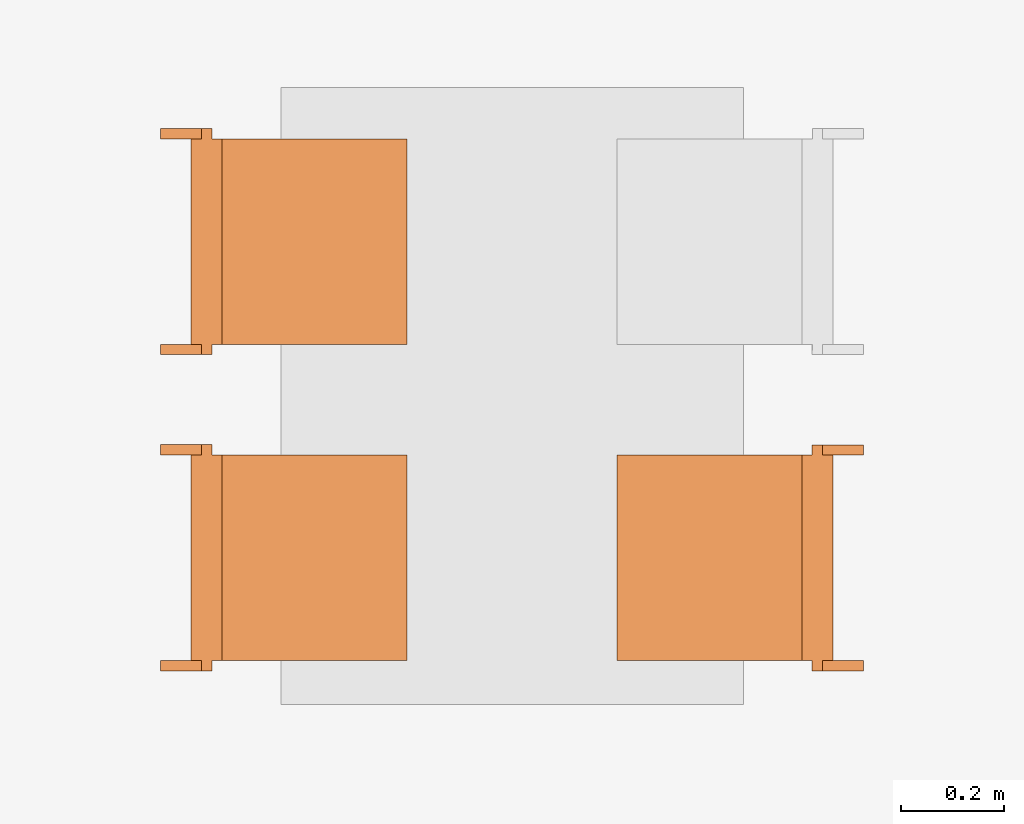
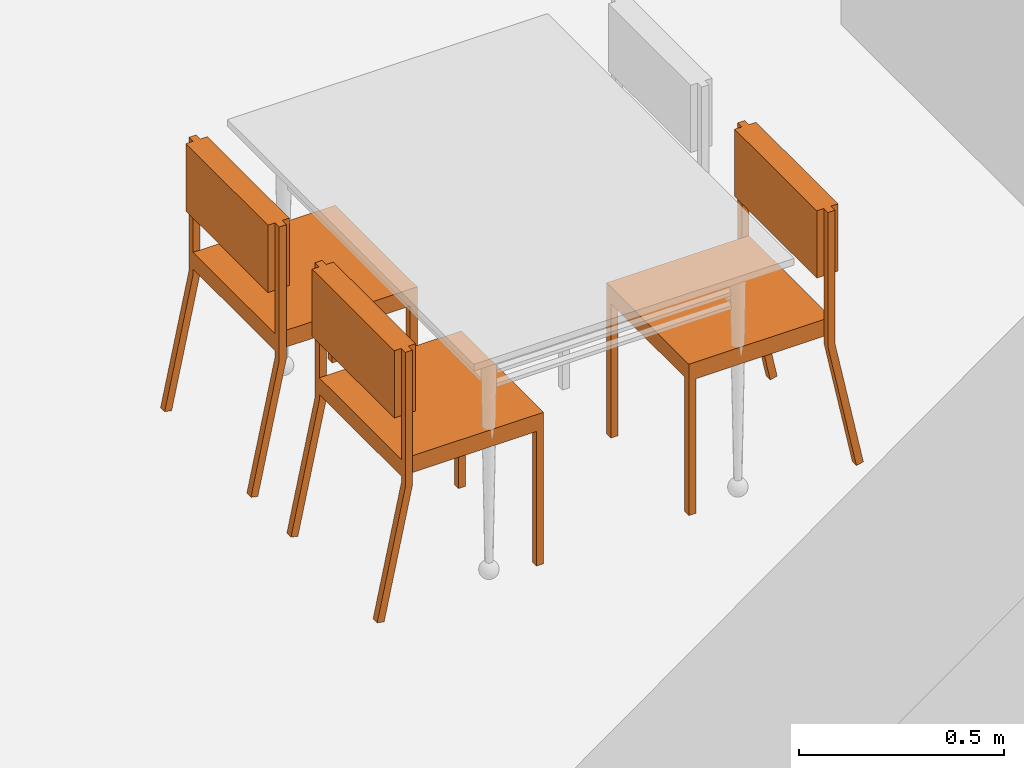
# One storey, part 139 of 164: 3 proxies.
"""IFC2X3 building model written with IfcOpenShell, lengths in millimetres."""

from ifc_helpers import new_model, entity, si_unit, converted_unit, derived_unit, money_unit, direction, frame, origin_with_axes, place, context, subcontext, project, spatial, faceted_brep, source, transform, mapped, type_object, element, save


model = new_model("IFC2X3")

# Units and contexts
model_context = context("Model", 3, precision=0.01, world=origin_with_axes(), true_north=direction((0.0, 1.0)))
body_context = subcontext(model_context, "Body", "Model", "MODEL_VIEW")
ifc_project = project(units=[si_unit("LENGTHUNIT", "METRE", prefix="MILLI"), si_unit("AREAUNIT", "SQUARE_METRE"), si_unit("VOLUMEUNIT", "CUBIC_METRE"), converted_unit("PLANEANGLEUNIT", "DEGREE", entity("IfcPlaneAngleMeasure", 0.0174532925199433), si_unit("PLANEANGLEUNIT", "RADIAN"), dimensions=[0, 0, 0, 0, 0, 0, 0]), money_unit("USD"), converted_unit("TIMEUNIT", "Year", entity("IfcTimeMeasure", 31557600.0), si_unit("TIMEUNIT", "SECOND"), dimensions=[0, 0, 1, 0, 0, 0, 0]), si_unit("MASSUNIT", "GRAM", prefix="KILO"), si_unit("THERMODYNAMICTEMPERATUREUNIT", "DEGREE_CELSIUS"), si_unit("LUMINOUSINTENSITYUNIT", "LUMEN"), si_unit("ENERGYUNIT", "JOULE", prefix="MEGA"), derived_unit("THERMALCONDUCTANCEUNIT", [(si_unit("POWERUNIT", "WATT"), 1), (si_unit("LENGTHUNIT", "METRE"), -1), (si_unit("THERMODYNAMICTEMPERATUREUNIT", "KELVIN"), -1)]), derived_unit("SPECIFICHEATCAPACITYUNIT", [(si_unit("ENERGYUNIT", "JOULE"), 1), (si_unit("MASSUNIT", "GRAM", prefix="KILO"), -1), (si_unit("THERMODYNAMICTEMPERATUREUNIT", "KELVIN"), -1)]), derived_unit("MASSDENSITYUNIT", [(si_unit("MASSUNIT", "GRAM", prefix="KILO"), 1), (si_unit("VOLUMEUNIT", "CUBIC_METRE"), -1)])], contexts=[model_context])

# Site, building, storey
site_placement = place(None, origin_with_axes())
site = spatial("IfcSite", under=ifc_project, at=site_placement, Name="Site", CompositionType="ELEMENT")
building_placement = place(site_placement, origin_with_axes())
building = spatial("IfcBuilding", under=site, at=building_placement, Name="Bâtiment", CompositionType="ELEMENT")
storey_placement = place(building_placement, frame((0.0, 0.0, 5750.0), z_axis=(0.0, 0.0, 1.0), x_axis=(1.0, 0.0, 0.0)))
storey = spatial("IfcBuildingStorey", under=building, at=storey_placement, Name="Etage1", CompositionType="ELEMENT", Elevation=5750.0)

# Proxies
building_element_proxy_type = type_object("IfcBuildingElementProxyType", PredefinedType="NOTDEFINED")
shared_shape_1 = source(origin_with_axes(), body_context, "Body", "Brep", [
    faceted_brep([(39.99999978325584, 0.0, 0.0), (19.99999989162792, 0.0, 0.0), (19.99999989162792, 19.99999936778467, 0.0), (39.99999978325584, 19.99999936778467, 0.0), (39.99999978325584, 0.0, 400.0), (19.99999989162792, 0.0, 400.0), (19.99999989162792, 19.99999936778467, 400.0), (39.99999978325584, 19.99999936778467, 400.0)], [[[0, 1, 2, 3]], [[1, 0, 4, 5]], [[2, 1, 5, 6]], [[3, 2, 6, 7]], [[0, 3, 7, 4]], [[5, 4, 7, 6]]]),
    faceted_brep([(419.9999977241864, 0.0, 0.0), (399.9999978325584, 0.0, 0.0), (399.9999978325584, 19.99999936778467, 0.0), (419.9999977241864, 19.99999936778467, 0.0), (419.9999977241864, 0.0, 400.0), (399.9999978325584, 0.0, 400.0), (399.9999978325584, 19.99999936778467, 400.0), (419.9999977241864, 19.99999936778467, 400.0)], [[[0, 1, 2, 3]], [[1, 0, 4, 5]], [[2, 1, 5, 6]], [[3, 2, 6, 7]], [[0, 3, 7, 4]], [[5, 4, 7, 6]]]),
    faceted_brep([(399.9999978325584, 0.0, 400.0000000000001), (39.99999978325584, 0.0, 400.0000000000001), (39.99999978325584, 19.99999936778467, 400.0000000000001), (399.9999978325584, 19.99999936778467, 400.0000000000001), (399.9999978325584, 0.0, 420.0000000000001), (39.99999978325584, 0.0, 420.0000000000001), (39.99999978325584, 19.99999936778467, 420.0000000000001), (399.9999978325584, 19.99999936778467, 420.0000000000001)], [[[0, 1, 2, 3]], [[1, 0, 4, 5]], [[2, 1, 5, 6]], [[3, 2, 6, 7]], [[0, 3, 7, 4]], [[5, 4, 7, 6]]]),
    faceted_brep([(39.99999978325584, 19.99999936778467, 400.0000000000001), (19.99999989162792, 19.99999936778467, 400.0000000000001), (19.99999989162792, 379.9999879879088, 400.0000000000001), (39.99999978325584, 379.9999879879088, 400.0000000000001), (39.99999978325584, 19.99999936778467, 420.0000000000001), (19.99999989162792, 19.99999936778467, 420.0000000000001), (19.99999989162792, 379.9999879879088, 420.0000000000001), (39.99999978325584, 379.9999879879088, 420.0000000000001)], [[[0, 1, 2, 3]], [[1, 0, 4, 5]], [[2, 1, 5, 6]], [[3, 2, 6, 7]], [[0, 3, 7, 4]], [[5, 4, 7, 6]]]),
    faceted_brep([(419.9999977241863, 379.9999879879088, 400.0000000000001), (19.99999989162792, 379.9999879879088, 400.0000000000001), (19.99999989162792, 399.9999873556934, 400.0000000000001), (419.9999977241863, 399.9999873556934, 400.0000000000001), (419.9999977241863, 379.9999879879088, 420.0000000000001), (19.99999989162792, 379.9999879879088, 420.0000000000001), (19.99999989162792, 399.9999873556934, 420.0000000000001), (419.9999977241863, 399.9999873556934, 420.0000000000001)], [[[0, 1, 2, 3]], [[1, 0, 4, 5]], [[2, 1, 5, 6]], [[3, 2, 6, 7]], [[0, 3, 7, 4]], [[5, 4, 7, 6]]]),
    faceted_brep([(419.9999977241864, 19.99999936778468, 400.0000000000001), (399.9999978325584, 19.99999936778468, 400.0000000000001), (399.9999978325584, 379.9999879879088, 400.0000000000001), (419.9999977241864, 379.9999879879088, 400.0000000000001), (419.9999977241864, 19.99999936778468, 420.0000000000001), (399.9999978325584, 19.99999936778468, 420.0000000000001), (399.9999978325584, 379.9999879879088, 420.0000000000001), (419.9999977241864, 379.9999879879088, 420.0000000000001)], [[[0, 1, 2, 3]], [[1, 0, 4, 5]], [[2, 1, 5, 6]], [[3, 2, 6, 7]], [[0, 3, 7, 4]], [[5, 4, 7, 6]]]),
    faceted_brep([(419.9999977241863, 0.0, 400.0), (19.99999989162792, 0.0, 400.0), (19.99999989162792, 399.9999873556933, 400.0), (419.9999977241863, 399.9999873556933, 400.0), (419.9999977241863, 0.0, 450.0), (19.99999989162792, 0.0, 450.0), (19.99999989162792, 399.9999873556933, 450.0), (419.9999977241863, 399.9999873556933, 450.0)], [[[0, 1, 2, 3]], [[1, 0, 4, 5]], [[2, 1, 5, 6]], [[3, 2, 6, 7]], [[0, 3, 7, 4]], [[5, 4, 7, 6]]]),
    faceted_brep([(19.99999989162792, 379.9999879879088, 380.0), (0.0, 379.9999879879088, 380.0), (0.0, 399.9999873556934, 380.0), (19.99999989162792, 399.9999873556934, 380.0), (19.99999989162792, 379.9999879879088, 780.0), (0.0, 379.9999879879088, 780.0), (0.0, 399.9999873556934, 780.0), (19.99999989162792, 399.9999873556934, 780.0)], [[[0, 1, 2, 3]], [[1, 0, 4, 5]], [[2, 1, 5, 6]], [[3, 2, 6, 7]], [[0, 3, 7, 4]], [[5, 4, 7, 6]]]),
    faceted_brep([(439.9999976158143, 379.9999879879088, 380.0), (419.9999977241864, 379.9999879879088, 380.0), (419.9999977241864, 399.9999873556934, 380.0), (439.9999976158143, 399.9999873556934, 380.0), (439.9999976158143, 379.9999879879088, 780.0), (419.9999977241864, 379.9999879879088, 780.0), (419.9999977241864, 399.9999873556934, 780.0), (439.9999976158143, 399.9999873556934, 780.0)], [[[0, 1, 2, 3]], [[1, 0, 4, 5]], [[2, 1, 5, 6]], [[3, 2, 6, 7]], [[0, 3, 7, 4]], [[5, 4, 7, 6]]]),
    faceted_brep([(419.9999977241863, 359.999988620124, 580.0000000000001), (19.99999989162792, 359.999988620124, 580.0000000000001), (19.99999989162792, 419.9999867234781, 580.0000000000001), (419.9999977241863, 419.9999867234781, 580.0000000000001), (419.9999977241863, 359.999988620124, 780.0), (19.99999989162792, 359.999988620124, 780.0), (19.99999989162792, 419.9999867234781, 780.0), (419.9999977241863, 419.9999867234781, 780.0)], [[[0, 1, 2, 3]], [[1, 0, 4, 5]], [[2, 1, 5, 6]], [[3, 2, 6, 7]], [[0, 3, 7, 4]], [[5, 4, 7, 6]]]),
    faceted_brep([(19.99999989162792, 459.9999854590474, 0.0), (0.0, 459.9999854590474, 0.0), (0.0, 479.5709559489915, 4.120326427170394), (19.99999989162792, 479.5709559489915, 4.120326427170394), (19.99999989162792, 379.997669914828, 379.999760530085), (0.0, 379.997669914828, 379.999760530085), (0.0, 399.5686404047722, 384.1200869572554), (19.99999989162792, 399.5686404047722, 384.1200869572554)], [[[0, 1, 2, 3]], [[1, 0, 4, 5]], [[2, 1, 5, 6]], [[3, 2, 6, 7]], [[0, 3, 7, 4]], [[5, 4, 7, 6]]]),
    faceted_brep([(439.9999976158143, 459.9999854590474, 0.0), (419.9999977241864, 459.9999854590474, 0.0), (419.9999977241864, 479.5709559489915, 4.120326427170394), (439.9999976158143, 479.5709559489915, 4.120326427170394), (439.9999976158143, 379.997669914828, 379.999760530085), (419.9999977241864, 379.997669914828, 379.999760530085), (419.9999977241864, 399.5686404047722, 384.1200869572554), (439.9999976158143, 399.5686404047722, 384.1200869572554)], [[[0, 1, 2, 3]], [[1, 0, 4, 5]], [[2, 1, 5, 6]], [[3, 2, 6, 7]], [[0, 3, 7, 4]], [[5, 4, 7, 6]]]),
])
proxy_placement = place(storey_placement, frame((2231102.83008565, -655902.8714699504, 0.0), z_axis=(0.0, 0.0, 1.0), x_axis=(-8.510155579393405e-05, -0.9999999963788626, 0.0)))
element("IfcBuildingElementProxy", 1, at=proxy_placement, inside=storey, type_object=building_element_proxy_type, Name="Obj.-027", context=body_context, shape_type="MappedRepresentation", body=[
    mapped(shared_shape_1, transform((0.0, 0.0, 0.0))),
])
shared_shape_2 = source(origin_with_axes(), body_context, "Body", "Brep", [
    faceted_brep([(-39.99999978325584, 0.0, 0.0), (-39.99999978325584, 19.99999936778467, 0.0), (-19.99999989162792, 19.99999936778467, 0.0), (-19.99999989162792, 0.0, 0.0), (-39.99999978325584, 0.0, 400.0), (-39.99999978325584, 19.99999936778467, 400.0), (-19.99999989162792, 19.99999936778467, 400.0), (-19.99999989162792, 0.0, 400.0)], [[[0, 1, 2, 3]], [[0, 4, 5, 1]], [[1, 5, 6, 2]], [[2, 6, 7, 3]], [[3, 7, 4, 0]], [[7, 6, 5, 4]]]),
    faceted_brep([(-419.9999977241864, 0.0, 0.0), (-419.9999977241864, 19.99999936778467, 0.0), (-399.9999978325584, 19.99999936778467, 0.0), (-399.9999978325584, 0.0, 0.0), (-419.9999977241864, 0.0, 400.0), (-419.9999977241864, 19.99999936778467, 400.0), (-399.9999978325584, 19.99999936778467, 400.0), (-399.9999978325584, 0.0, 400.0)], [[[0, 1, 2, 3]], [[0, 4, 5, 1]], [[1, 5, 6, 2]], [[2, 6, 7, 3]], [[3, 7, 4, 0]], [[7, 6, 5, 4]]]),
    faceted_brep([(-399.9999978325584, 0.0, 400.0000000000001), (-399.9999978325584, 19.99999936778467, 400.0000000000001), (-39.99999978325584, 19.99999936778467, 400.0000000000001), (-39.99999978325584, 0.0, 400.0000000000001), (-399.9999978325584, 0.0, 420.0000000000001), (-399.9999978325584, 19.99999936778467, 420.0000000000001), (-39.99999978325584, 19.99999936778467, 420.0000000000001), (-39.99999978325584, 0.0, 420.0000000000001)], [[[0, 1, 2, 3]], [[0, 4, 5, 1]], [[1, 5, 6, 2]], [[2, 6, 7, 3]], [[3, 7, 4, 0]], [[7, 6, 5, 4]]]),
    faceted_brep([(-39.99999978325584, 19.99999936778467, 400.0000000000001), (-39.99999978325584, 379.9999879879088, 400.0000000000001), (-19.99999989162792, 379.9999879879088, 400.0000000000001), (-19.99999989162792, 19.99999936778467, 400.0000000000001), (-39.99999978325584, 19.99999936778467, 420.0000000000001), (-39.99999978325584, 379.9999879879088, 420.0000000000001), (-19.99999989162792, 379.9999879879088, 420.0000000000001), (-19.99999989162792, 19.99999936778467, 420.0000000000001)], [[[0, 1, 2, 3]], [[0, 4, 5, 1]], [[1, 5, 6, 2]], [[2, 6, 7, 3]], [[3, 7, 4, 0]], [[7, 6, 5, 4]]]),
    faceted_brep([(-419.9999977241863, 379.9999879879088, 400.0000000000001), (-419.9999977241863, 399.9999873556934, 400.0000000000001), (-19.99999989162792, 399.9999873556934, 400.0000000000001), (-19.99999989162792, 379.9999879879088, 400.0000000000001), (-419.9999977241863, 379.9999879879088, 420.0000000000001), (-419.9999977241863, 399.9999873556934, 420.0000000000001), (-19.99999989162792, 399.9999873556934, 420.0000000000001), (-19.99999989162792, 379.9999879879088, 420.0000000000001)], [[[0, 1, 2, 3]], [[0, 4, 5, 1]], [[1, 5, 6, 2]], [[2, 6, 7, 3]], [[3, 7, 4, 0]], [[7, 6, 5, 4]]]),
    faceted_brep([(-419.9999977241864, 19.99999936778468, 400.0000000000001), (-419.9999977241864, 379.9999879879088, 400.0000000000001), (-399.9999978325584, 379.9999879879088, 400.0000000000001), (-399.9999978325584, 19.99999936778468, 400.0000000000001), (-419.9999977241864, 19.99999936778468, 420.0000000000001), (-419.9999977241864, 379.9999879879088, 420.0000000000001), (-399.9999978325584, 379.9999879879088, 420.0000000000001), (-399.9999978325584, 19.99999936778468, 420.0000000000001)], [[[0, 1, 2, 3]], [[0, 4, 5, 1]], [[1, 5, 6, 2]], [[2, 6, 7, 3]], [[3, 7, 4, 0]], [[7, 6, 5, 4]]]),
    faceted_brep([(-419.9999977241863, 0.0, 400.0), (-419.9999977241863, 399.9999873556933, 400.0), (-19.99999989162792, 399.9999873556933, 400.0), (-19.99999989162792, 0.0, 400.0), (-419.9999977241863, 0.0, 450.0), (-419.9999977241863, 399.9999873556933, 450.0), (-19.99999989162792, 399.9999873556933, 450.0), (-19.99999989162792, 0.0, 450.0)], [[[0, 1, 2, 3]], [[0, 4, 5, 1]], [[1, 5, 6, 2]], [[2, 6, 7, 3]], [[3, 7, 4, 0]], [[7, 6, 5, 4]]]),
    faceted_brep([(-19.99999989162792, 379.9999879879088, 380.0), (-19.99999989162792, 399.9999873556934, 380.0), (0.0, 399.9999873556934, 380.0), (0.0, 379.9999879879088, 380.0), (-19.99999989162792, 379.9999879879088, 780.0), (-19.99999989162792, 399.9999873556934, 780.0), (0.0, 399.9999873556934, 780.0), (0.0, 379.9999879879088, 780.0)], [[[0, 1, 2, 3]], [[0, 4, 5, 1]], [[1, 5, 6, 2]], [[2, 6, 7, 3]], [[3, 7, 4, 0]], [[7, 6, 5, 4]]]),
    faceted_brep([(-439.9999976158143, 379.9999879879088, 380.0), (-439.9999976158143, 399.9999873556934, 380.0), (-419.9999977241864, 399.9999873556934, 380.0), (-419.9999977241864, 379.9999879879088, 380.0), (-439.9999976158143, 379.9999879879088, 780.0), (-439.9999976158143, 399.9999873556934, 780.0), (-419.9999977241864, 399.9999873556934, 780.0), (-419.9999977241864, 379.9999879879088, 780.0)], [[[0, 1, 2, 3]], [[0, 4, 5, 1]], [[1, 5, 6, 2]], [[2, 6, 7, 3]], [[3, 7, 4, 0]], [[7, 6, 5, 4]]]),
    faceted_brep([(-419.9999977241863, 359.999988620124, 580.0000000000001), (-419.9999977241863, 419.9999867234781, 580.0000000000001), (-19.99999989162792, 419.9999867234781, 580.0000000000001), (-19.99999989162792, 359.999988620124, 580.0000000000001), (-419.9999977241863, 359.999988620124, 780.0), (-419.9999977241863, 419.9999867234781, 780.0), (-19.99999989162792, 419.9999867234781, 780.0), (-19.99999989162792, 359.999988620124, 780.0)], [[[0, 1, 2, 3]], [[0, 4, 5, 1]], [[1, 5, 6, 2]], [[2, 6, 7, 3]], [[3, 7, 4, 0]], [[7, 6, 5, 4]]]),
    faceted_brep([(-19.99999989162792, 459.9999854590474, 0.0), (-19.99999989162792, 479.5709559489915, 4.120326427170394), (0.0, 479.5709559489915, 4.120326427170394), (0.0, 459.9999854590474, 0.0), (-19.99999989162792, 379.997669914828, 379.999760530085), (-19.99999989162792, 399.5686404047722, 384.1200869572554), (0.0, 399.5686404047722, 384.1200869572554), (0.0, 379.997669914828, 379.999760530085)], [[[0, 1, 2, 3]], [[0, 4, 5, 1]], [[1, 5, 6, 2]], [[2, 6, 7, 3]], [[3, 7, 4, 0]], [[7, 6, 5, 4]]]),
    faceted_brep([(-439.9999976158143, 459.9999854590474, 0.0), (-439.9999976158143, 479.5709559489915, 4.120326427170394), (-419.9999977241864, 479.5709559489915, 4.120326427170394), (-419.9999977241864, 459.9999854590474, 0.0), (-439.9999976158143, 379.997669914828, 379.999760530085), (-439.9999976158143, 399.5686404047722, 384.1200869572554), (-419.9999977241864, 399.5686404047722, 384.1200869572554), (-419.9999977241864, 379.997669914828, 379.999760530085)], [[[0, 1, 2, 3]], [[0, 4, 5, 1]], [[1, 5, 6, 2]], [[2, 6, 7, 3]], [[3, 7, 4, 0]], [[7, 6, 5, 4]]]),
])
for number, where, z_axis, x_axis, name in (
    (2, (2230694.825051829, -655287.7113409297, 0.0), (0.0, 0.0, 1.0), (8.510155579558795e-05, 0.9999999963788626, 0.0), "Obj.-027"),
    (3, (2230694.772703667, -655902.8367436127, 0.0), (0.0, 0.0, 1.0), (8.510155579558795e-05, 0.9999999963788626, 0.0), "Obj.-027"),
):
    element("IfcBuildingElementProxy", number, at=place(storey_placement, frame(where, z_axis=z_axis, x_axis=x_axis)), inside=storey, type_object=building_element_proxy_type, Name=name, context=body_context, shape_type="MappedRepresentation", body=[
        mapped(shared_shape_2, transform((0.0, 0.0, 0.0))),
    ])

save(model, "model.ifc")
